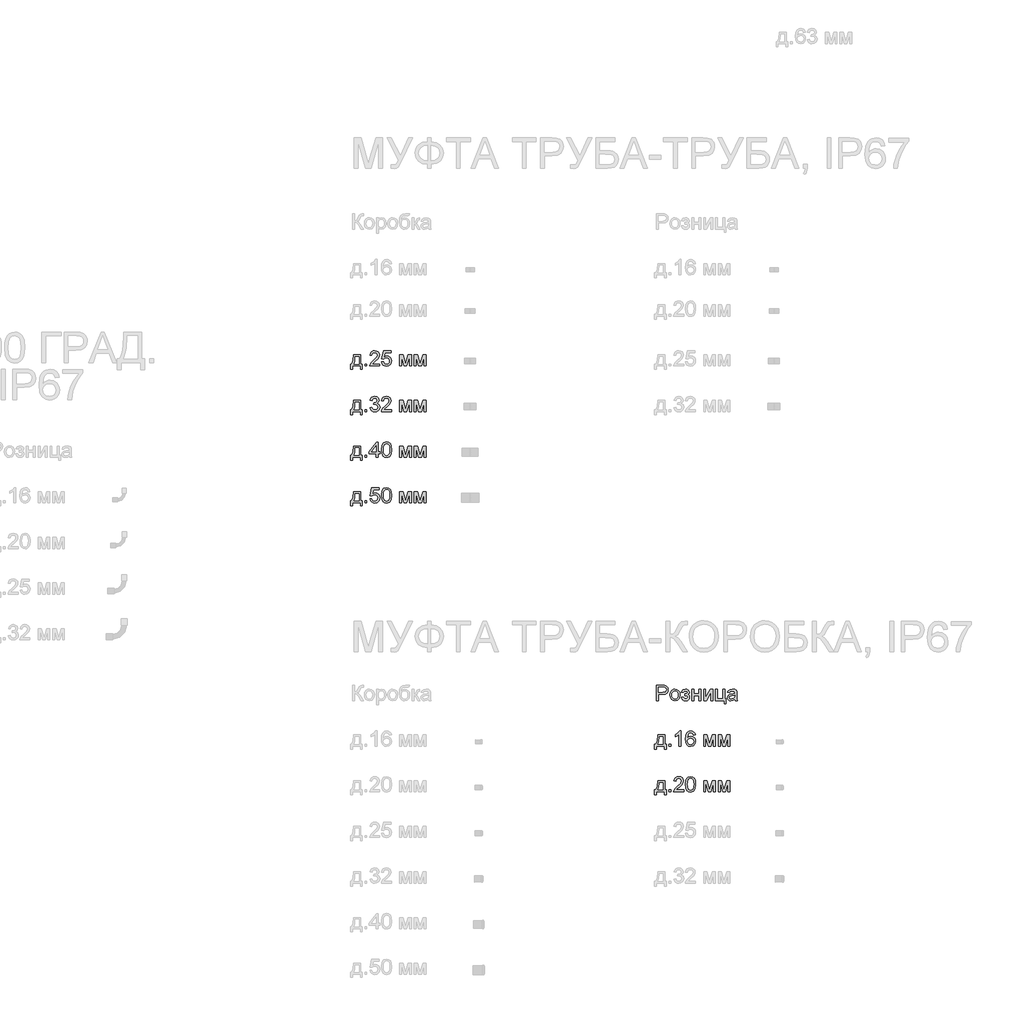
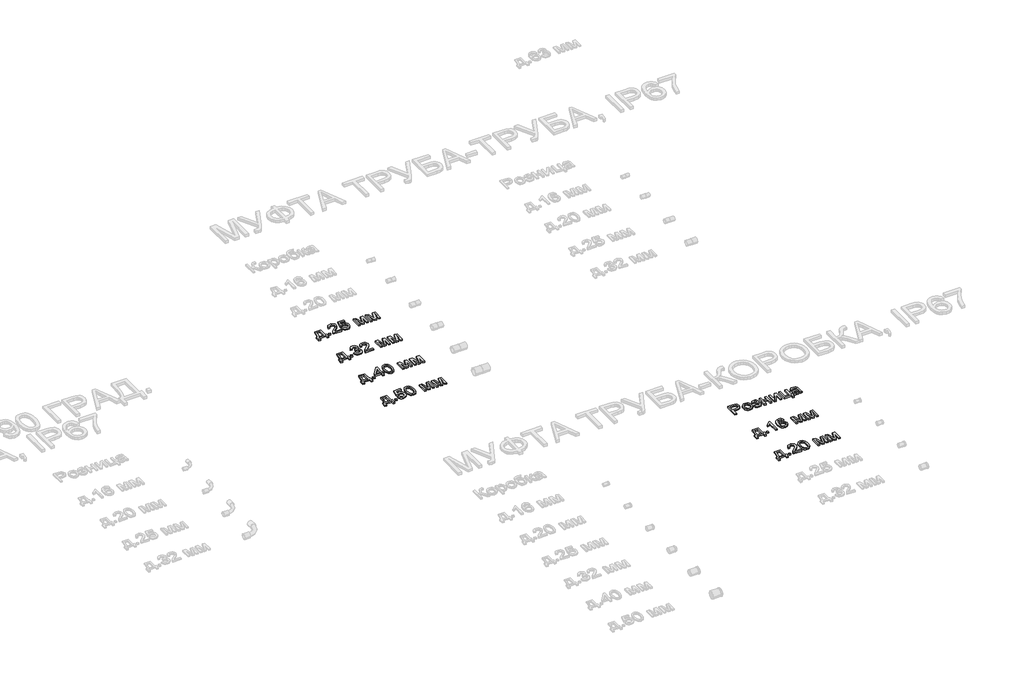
# One storey, part 71 of 98: 7 proxies.
"""IFC4 building model written with IfcOpenShell, lengths in millimetres."""

from ifc_helpers import new_model, si_unit, origin, origin_with_axes, place, context, project, spatial, polyline, outline, extrude, element, save

model = new_model("IFC4")

# Units and contexts
model_context = context("Model", 3, world=origin())
ifc_project = project(units=[si_unit("LENGTHUNIT", "METRE", prefix="MILLI")], contexts=[model_context])

# Site, building, storey
site = spatial("IfcSite", under=ifc_project)
building = spatial("IfcBuilding", under=site)
storey = spatial("IfcBuildingStorey", under=building, Name="Этаж 01", Elevation=0.0)

# Proxies
placement = place(None, origin())
element("IfcBuildingElementProxy", 1, Name="100", ObjectType="100", at=placement, inside=storey, context=model_context, shape_type="SweptSolid", body=[
    extrude(outline(polyline([(8356.3281893, -20085.7395637), (8403.4170847, -20085.7395637), (8403.4170847, -20146.9551277), (8412.8348638, -20146.9551277), (8412.8348638, -20179.9173545), (8400.277825, -20179.9173545), (8400.277825, -20159.5121665), (8348.4800401, -20159.5121665), (8348.4800401, -20179.9173545), (8335.9230013, -20179.9173545), (8335.9230013, -20146.9551277), (8343.7711505, -20146.9551277), (8353.4709725, -20123.0060098), (8356.3281893, -20085.7395637)]), holes=[polyline([(8367.3155982, -20098.2966025), (8364.3725423, -20126.905559), (8357.8978192, -20146.9551277), (8390.8600459, -20146.9551277), (8390.8600459, -20098.2966025), (8367.3155982, -20098.2966025)])]), origin_with_axes(), (0.0, 0.0, 1.0), 10.0),
    extrude(outline(polyline([(8430.1007921, -20159.5121665), (8430.1007921, -20146.9551277), (8442.6578308, -20146.9551277), (8442.6578308, -20159.5121665), (8430.1007921, -20159.5121665)])), origin_with_axes(), (0.0, 0.0, 1.0), 10.0),
    extrude(outline(polyline([(8527.4178425, -20146.9551277), (8527.4178425, -20159.5121665), (8461.493389, -20159.5121665), (8462.8422896, -20150.8546768), (8470.4697097, -20137.5250859), (8486.1905336, -20122.9692216), (8507.8710459, -20102.0489988), (8513.2911739, -20087.8242283), (8508.1776142, -20076.3095219), (8494.8234978, -20071.6128951), (8480.9052956, -20076.1991573), (8475.6200576, -20088.8788234), (8463.0630188, -20087.3091935), (8466.1072424, -20075.1629563), (8472.6892644, -20066.2908689), (8482.4657284, -20060.8646095), (8495.0932779, -20059.0558563), (8507.8127979, -20061.0669445), (8517.5708678, -20067.1002093), (8523.7788765, -20076.1133182), (8525.8482127, -20087.0639389), (8523.6163953, -20098.9710528), (8516.1974417, -20111.2828369), (8498.2080121, -20128.4874515), (8483.7625124, -20140.5662437), (8478.0971297, -20146.9551277), (8527.4178425, -20146.9551277)])), origin_with_axes(), (0.0, 0.0, 1.0), 10.0),
    extrude(outline(polyline([(8539.9748813, -20132.8284591), (8552.5319201, -20131.2588292), (8558.8594904, -20144.1960127), (8571.9806149, -20148.5247575), (8580.981461, -20147.019507), (8587.7259643, -20142.5037555), (8591.9382131, -20135.4986692), (8593.3422961, -20126.5254142), (8588.0815835, -20111.6139307), (8581.475036, -20107.5120464), (8572.1768186, -20106.1447517), (8561.1526215, -20108.3275182), (8554.1015499, -20113.9929009), (8541.5445111, -20112.4232711), (8552.5319201, -20060.6254862), (8601.1904453, -20060.6254862), (8601.1904453, -20073.1825249), (8562.6854631, -20073.1825249), (8557.314386, -20100.847251), (8566.2845753, -20095.4025974), (8575.6839603, -20093.5877129), (8587.4163303, -20095.8379245), (8597.1560061, -20102.5885591), (8603.7135027, -20112.8769922), (8605.8993348, -20125.7405993), (8603.9311662, -20138.2976381), (8598.0266601, -20149.0397923), (8586.7204202, -20158.0712953), (8571.931564, -20161.0817963), (8559.5983201, -20159.1473501), (8549.7728051, -20153.3440117), (8543.0374989, -20144.3462312), (8539.9748813, -20132.8284591)])), origin_with_axes(), (0.0, 0.0, 1.0), 10.0),
    extrude(outline(polyline([(8659.2667496, -20085.7395637), (8680.8736855, -20085.7395637), (8697.5264771, -20144.7968867), (8715.4791185, -20085.7395637), (8736.1786121, -20085.7395637), (8736.1786121, -20159.5121665), (8723.6215733, -20159.5121665), (8723.6215733, -20100.111487), (8705.5708301, -20159.5121665), (8689.0897167, -20159.5121665), (8671.8237884, -20097.2665329), (8671.8237884, -20159.5121665), (8659.2667496, -20159.5121665), (8659.2667496, -20085.7395637)])), origin_with_axes(), (0.0, 0.0, 1.0), 10.0),
    extrude(outline(polyline([(8755.0141702, -20085.7395637), (8776.6211061, -20085.7395637), (8793.2738977, -20144.7968867), (8811.2265391, -20085.7395637), (8831.9260327, -20085.7395637), (8831.9260327, -20159.5121665), (8819.3689939, -20159.5121665), (8819.3689939, -20100.111487), (8801.3182507, -20159.5121665), (8784.8371373, -20159.5121665), (8767.571209, -20097.2665329), (8767.571209, -20159.5121665), (8755.0141702, -20159.5121665), (8755.0141702, -20085.7395637)])), origin_with_axes(), (0.0, 0.0, 1.0), 10.0),
])
element("IfcBuildingElementProxy", 2, Name="100", ObjectType="100", at=placement, inside=storey, context=model_context, shape_type="SweptSolid", body=[
    extrude(outline(polyline([(8356.3281893, -20385.7395637), (8403.4170847, -20385.7395637), (8403.4170847, -20446.9551277), (8412.8348638, -20446.9551277), (8412.8348638, -20479.9173545), (8400.277825, -20479.9173545), (8400.277825, -20459.5121665), (8348.4800401, -20459.5121665), (8348.4800401, -20479.9173545), (8335.9230013, -20479.9173545), (8335.9230013, -20446.9551277), (8343.7711505, -20446.9551277), (8353.4709725, -20423.0060098), (8356.3281893, -20385.7395637)]), holes=[polyline([(8367.3155982, -20398.2966025), (8364.3725423, -20426.905559), (8357.8978192, -20446.9551277), (8390.8600459, -20446.9551277), (8390.8600459, -20398.2966025), (8367.3155982, -20398.2966025)])]), origin_with_axes(), (0.0, 0.0, 1.0), 10.0),
    extrude(outline(polyline([(8430.1007921, -20459.5121665), (8430.1007921, -20446.9551277), (8442.6578308, -20446.9551277), (8442.6578308, -20459.5121665), (8430.1007921, -20459.5121665)])), origin_with_axes(), (0.0, 0.0, 1.0), 10.0),
    extrude(outline(polyline([(8463.0630188, -20432.8284591), (8475.6200576, -20431.2588292), (8482.5485019, -20444.4780556), (8495.5102108, -20448.5247575), (8504.1186495, -20447.1329373), (8510.7650509, -20442.9574767), (8516.4304336, -20429.1741646), (8510.8141018, -20416.1879302), (8496.5402804, -20411.049845), (8487.735638, -20412.4232711), (8489.1335896, -20399.8662323), (8491.1446778, -20400.0133851), (8505.3939738, -20396.4081416), (8510.1396515, -20391.8341421), (8511.7215441, -20385.3226308), (8507.1352819, -20375.5001815), (8495.3140071, -20371.6128951), (8483.3455795, -20375.5369697), (8477.1896875, -20387.3091935), (8464.6326487, -20385.7395637), (8468.3298627, -20374.4639805), (8474.9088191, -20366.0456142), (8483.9096652, -20360.8032958), (8494.8725487, -20359.0558563), (8510.0170242, -20362.5016843), (8520.6120256, -20371.9194634), (8524.2785828, -20384.5868668), (8520.7959666, -20396.1628869), (8510.4952708, -20404.47702), (8524.180481, -20413.0609332), (8528.9874724, -20429.3948938), (8526.5839767, -20441.6331015), (8519.3734896, -20451.860221), (8508.4903139, -20458.7764025), (8495.0687524, -20461.0817963), (8482.9286466, -20459.1136276), (8473.0448836, -20453.2091216), (8466.1716217, -20444.1776186), (8463.0630188, -20432.8284591)])), origin_with_axes(), (0.0, 0.0, 1.0), 10.0),
    extrude(outline(polyline([(8604.329705, -20446.9551277), (8604.329705, -20459.5121665), (8538.4052515, -20459.5121665), (8539.7541521, -20450.8546768), (8547.3815721, -20437.5250859), (8563.1023961, -20422.9692216), (8584.7829083, -20402.0489988), (8590.2030364, -20387.8242283), (8585.0894766, -20376.3095219), (8571.7353602, -20371.6128951), (8557.8171581, -20376.1991573), (8552.5319201, -20388.8788234), (8539.9748813, -20387.3091935), (8543.0191048, -20375.1629563), (8549.6011268, -20366.2908689), (8559.3775909, -20360.8646095), (8572.0051403, -20359.0558563), (8584.7246603, -20361.0669445), (8594.4827303, -20367.1002093), (8600.6907389, -20376.1133182), (8602.7600751, -20387.0639389), (8600.5282577, -20398.9710528), (8593.1093041, -20411.2828369), (8575.1198746, -20428.4874515), (8560.6743749, -20440.5662437), (8555.0089922, -20446.9551277), (8604.329705, -20446.9551277)])), origin_with_axes(), (0.0, 0.0, 1.0), 10.0),
    extrude(outline(polyline([(8659.2667496, -20385.7395637), (8680.8736855, -20385.7395637), (8697.5264771, -20444.7968867), (8715.4791185, -20385.7395637), (8736.1786121, -20385.7395637), (8736.1786121, -20459.5121665), (8723.6215733, -20459.5121665), (8723.6215733, -20400.111487), (8705.5708301, -20459.5121665), (8689.0897167, -20459.5121665), (8671.8237884, -20397.2665329), (8671.8237884, -20459.5121665), (8659.2667496, -20459.5121665), (8659.2667496, -20385.7395637)])), origin_with_axes(), (0.0, 0.0, 1.0), 10.0),
    extrude(outline(polyline([(8755.0141702, -20385.7395637), (8776.6211061, -20385.7395637), (8793.2738977, -20444.7968867), (8811.2265391, -20385.7395637), (8831.9260327, -20385.7395637), (8831.9260327, -20459.5121665), (8819.3689939, -20459.5121665), (8819.3689939, -20400.111487), (8801.3182507, -20459.5121665), (8784.8371373, -20459.5121665), (8767.571209, -20397.2665329), (8767.571209, -20459.5121665), (8755.0141702, -20459.5121665), (8755.0141702, -20385.7395637)])), origin_with_axes(), (0.0, 0.0, 1.0), 10.0),
])
element("IfcBuildingElementProxy", 3, Name="100", ObjectType="100", at=placement, inside=storey, context=model_context, shape_type="SweptSolid", body=[
    extrude(outline(polyline([(8356.3281893, -20685.7395637), (8403.4170847, -20685.7395637), (8403.4170847, -20746.9551277), (8412.8348638, -20746.9551277), (8412.8348638, -20779.9173545), (8400.277825, -20779.9173545), (8400.277825, -20759.5121665), (8348.4800401, -20759.5121665), (8348.4800401, -20779.9173545), (8335.9230013, -20779.9173545), (8335.9230013, -20746.9551277), (8343.7711505, -20746.9551277), (8353.4709725, -20723.0060098), (8356.3281893, -20685.7395637)]), holes=[polyline([(8367.3155982, -20698.2966025), (8364.3725423, -20726.905559), (8357.8978192, -20746.9551277), (8390.8600459, -20746.9551277), (8390.8600459, -20698.2966025), (8367.3155982, -20698.2966025)])]), origin_with_axes(), (0.0, 0.0, 1.0), 10.0),
    extrude(outline(polyline([(8430.1007921, -20759.5121665), (8430.1007921, -20746.9551277), (8442.6578308, -20746.9551277), (8442.6578308, -20759.5121665), (8430.1007921, -20759.5121665)])), origin_with_axes(), (0.0, 0.0, 1.0), 10.0),
    extrude(outline(polyline([(8503.8733948, -20759.5121665), (8503.8733948, -20735.9677188), (8458.3541293, -20735.9677188), (8458.3541293, -20723.41068), (8507.0126545, -20660.6254862), (8516.4304336, -20660.6254862), (8516.4304336, -20723.41068), (8528.9874724, -20723.41068), (8528.9874724, -20735.9677188), (8516.4304336, -20735.9677188), (8516.4304336, -20759.5121665), (8503.8733948, -20759.5121665)]), holes=[polyline([(8503.8733948, -20723.41068), (8503.8733948, -20684.6113922), (8473.8051731, -20723.41068), (8503.8733948, -20723.41068)])]), origin_with_axes(), (0.0, 0.0, 1.0), 10.0),
    extrude(outline(polyline([(8539.9748813, -20710.0933518), (8543.665964, -20681.1900897), (8554.6288474, -20664.5250353), (8572.9371081, -20659.0558563), (8587.6033369, -20662.2932179), (8597.7323545, -20671.6251578), (8603.6184665, -20686.4875904), (8605.8993348, -20710.0933518), (8602.2450404, -20738.8739865), (8591.3189451, -20755.5758291), (8583.0875855, -20759.7053045), (8572.9371081, -20761.0817963), (8559.88956, -20758.6905633), (8549.9812716, -20751.5168644), (8542.4764789, -20734.5268476), (8539.9748813, -20710.0933518)]), holes=[polyline([(8552.5319201, -20710.0688263), (8554.0034481, -20729.8210238), (8558.418032, -20741.2529568), (8564.990857, -20746.7068073), (8572.9371081, -20748.5247575), (8580.8833592, -20746.700676), (8587.4561841, -20741.2284313), (8591.8707681, -20729.7903669), (8593.3422961, -20710.0688263), (8591.919819, -20690.7611529), (8587.6523879, -20679.2403151), (8581.0918256, -20673.5197501), (8572.7899553, -20671.6128951), (8564.9295433, -20673.2928895), (8558.6142357, -20678.3328729), (8554.052499, -20690.5710806), (8552.5319201, -20710.0688263)])]), origin_with_axes(), (0.0, 0.0, 1.0), 10.0),
    extrude(outline(polyline([(8659.2667496, -20685.7395637), (8680.8736855, -20685.7395637), (8697.5264771, -20744.7968867), (8715.4791185, -20685.7395637), (8736.1786121, -20685.7395637), (8736.1786121, -20759.5121665), (8723.6215733, -20759.5121665), (8723.6215733, -20700.111487), (8705.5708301, -20759.5121665), (8689.0897167, -20759.5121665), (8671.8237884, -20697.2665329), (8671.8237884, -20759.5121665), (8659.2667496, -20759.5121665), (8659.2667496, -20685.7395637)])), origin_with_axes(), (0.0, 0.0, 1.0), 10.0),
    extrude(outline(polyline([(8755.0141702, -20685.7395637), (8776.6211061, -20685.7395637), (8793.2738977, -20744.7968867), (8811.2265391, -20685.7395637), (8831.9260327, -20685.7395637), (8831.9260327, -20759.5121665), (8819.3689939, -20759.5121665), (8819.3689939, -20700.111487), (8801.3182507, -20759.5121665), (8784.8371373, -20759.5121665), (8767.571209, -20697.2665329), (8767.571209, -20759.5121665), (8755.0141702, -20759.5121665), (8755.0141702, -20685.7395637)])), origin_with_axes(), (0.0, 0.0, 1.0), 10.0),
])
element("IfcBuildingElementProxy", 4, Name="100", ObjectType="100", at=placement, inside=storey, context=model_context, shape_type="SweptSolid", body=[
    extrude(outline(polyline([(8356.3281893, -20985.7395637), (8403.4170847, -20985.7395637), (8403.4170847, -21046.9551277), (8412.8348638, -21046.9551277), (8412.8348638, -21079.9173545), (8400.277825, -21079.9173545), (8400.277825, -21059.5121665), (8348.4800401, -21059.5121665), (8348.4800401, -21079.9173545), (8335.9230013, -21079.9173545), (8335.9230013, -21046.9551277), (8343.7711505, -21046.9551277), (8353.4709725, -21023.0060098), (8356.3281893, -20985.7395637)]), holes=[polyline([(8367.3155982, -20998.2966025), (8364.3725423, -21026.905559), (8357.8978192, -21046.9551277), (8390.8600459, -21046.9551277), (8390.8600459, -20998.2966025), (8367.3155982, -20998.2966025)])]), origin_with_axes(), (0.0, 0.0, 1.0), 10.0),
    extrude(outline(polyline([(8430.1007921, -21059.5121665), (8430.1007921, -21046.9551277), (8442.6578308, -21046.9551277), (8442.6578308, -21059.5121665), (8430.1007921, -21059.5121665)])), origin_with_axes(), (0.0, 0.0, 1.0), 10.0),
    extrude(outline(polyline([(8463.0630188, -21032.8284591), (8475.6200576, -21031.2588292), (8481.9476279, -21044.1960127), (8495.0687524, -21048.5247575), (8504.0695986, -21047.019507), (8510.8141018, -21042.5037555), (8515.0263507, -21035.4986692), (8516.4304336, -21026.5254142), (8511.1697211, -21011.6139307), (8504.5631736, -21007.5120464), (8495.2649562, -21006.1447517), (8484.240759, -21008.3275182), (8477.1896875, -21013.9929009), (8464.6326487, -21012.4232711), (8475.6200576, -20960.6254862), (8524.2785828, -20960.6254862), (8524.2785828, -20973.1825249), (8485.7736007, -20973.1825249), (8480.4025236, -21000.847251), (8489.3727129, -20995.4025974), (8498.7720978, -20993.5877129), (8510.5044678, -20995.8379245), (8520.2441436, -21002.5885591), (8526.8016402, -21012.8769922), (8528.9874724, -21025.7405993), (8527.0193037, -21038.2976381), (8521.1147977, -21049.0397923), (8509.8085577, -21058.0712953), (8495.0197015, -21061.0817963), (8482.6864576, -21059.1473501), (8472.8609426, -21053.3440117), (8466.1256365, -21044.3462312), (8463.0630188, -21032.8284591)])), origin_with_axes(), (0.0, 0.0, 1.0), 10.0),
    extrude(outline(polyline([(8539.9748813, -21010.0933518), (8543.665964, -20981.1900897), (8554.6288474, -20964.5250353), (8572.9371081, -20959.0558563), (8587.6033369, -20962.2932179), (8597.7323545, -20971.6251578), (8603.6184665, -20986.4875904), (8605.8993348, -21010.0933518), (8602.2450404, -21038.8739865), (8591.3189451, -21055.5758291), (8583.0875855, -21059.7053045), (8572.9371081, -21061.0817963), (8559.88956, -21058.6905633), (8549.9812716, -21051.5168644), (8542.4764789, -21034.5268476), (8539.9748813, -21010.0933518)]), holes=[polyline([(8552.5319201, -21010.0688263), (8554.0034481, -21029.8210238), (8558.418032, -21041.2529568), (8564.990857, -21046.7068073), (8572.9371081, -21048.5247575), (8580.8833592, -21046.700676), (8587.4561841, -21041.2284313), (8591.8707681, -21029.7903669), (8593.3422961, -21010.0688263), (8591.919819, -20990.7611529), (8587.6523879, -20979.2403151), (8581.0918256, -20973.5197501), (8572.7899553, -20971.6128951), (8564.9295433, -20973.2928895), (8558.6142357, -20978.3328729), (8554.052499, -20990.5710806), (8552.5319201, -21010.0688263)])]), origin_with_axes(), (0.0, 0.0, 1.0), 10.0),
    extrude(outline(polyline([(8659.2667496, -20985.7395637), (8680.8736855, -20985.7395637), (8697.5264771, -21044.7968867), (8715.4791185, -20985.7395637), (8736.1786121, -20985.7395637), (8736.1786121, -21059.5121665), (8723.6215733, -21059.5121665), (8723.6215733, -21000.111487), (8705.5708301, -21059.5121665), (8689.0897167, -21059.5121665), (8671.8237884, -20997.2665329), (8671.8237884, -21059.5121665), (8659.2667496, -21059.5121665), (8659.2667496, -20985.7395637)])), origin_with_axes(), (0.0, 0.0, 1.0), 10.0),
    extrude(outline(polyline([(8755.0141702, -20985.7395637), (8776.6211061, -20985.7395637), (8793.2738977, -21044.7968867), (8811.2265391, -20985.7395637), (8831.9260327, -20985.7395637), (8831.9260327, -21059.5121665), (8819.3689939, -21059.5121665), (8819.3689939, -21000.111487), (8801.3182507, -21059.5121665), (8784.8371373, -21059.5121665), (8767.571209, -20997.2665329), (8767.571209, -21059.5121665), (8755.0141702, -21059.5121665), (8755.0141702, -20985.7395637)])), origin_with_axes(), (0.0, 0.0, 1.0), 10.0),
])
element("IfcBuildingElementProxy", 5, Name="100", ObjectType="100", at=placement, inside=storey, context=model_context, shape_type="SweptSolid", body=[
    extrude(outline(polyline([(10349.7389883, -22359.5121665), (10349.7389883, -22259.0558563), (10386.9686463, -22259.0558563), (10401.9782317, -22260.0123495), (10414.1796512, -22264.7089763), (10422.0891141, -22274.421061), (10425.081221, -22288.1185339), (10423.0609357, -22299.9582028), (10417.0000798, -22309.8235716), (10405.6662487, -22316.4822358), (10387.8270376, -22318.7017905), (10362.2960271, -22318.7017905), (10362.2960271, -22359.5121665), (10349.7389883, -22359.5121665)]), holes=[polyline([(10362.2960271, -22306.1447517), (10388.5628016, -22306.1447517), (10407.0550032, -22301.533964), (10411.1568874, -22295.9850773), (10412.5241822, -22288.5599923), (10409.2990834, -22278.1611946), (10400.8255347, -22272.4712864), (10388.268496, -22271.6128951), (10362.2960271, -22271.6128951), (10362.2960271, -22306.1447517)])]), origin_with_axes(), (0.0, 0.0, 1.0), 10.0),
    extrude(outline(polyline([(10437.6382597, -22322.6258651), (10440.3544551, -22304.8387706), (10448.5030413, -22292.3369141), (10458.5707453, -22286.2116789), (10470.625012, -22284.1699338), (10483.8166472, -22286.656203), (10494.3534006, -22294.1150104), (10501.2603851, -22305.957745), (10503.5627133, -22321.5957955), (10499.4914858, -22343.9384953), (10487.6334229, -22356.5813732), (10470.625012, -22361.0817963), (10457.2739612, -22358.6047242), (10446.7494705, -22351.1735079), (10439.9160624, -22339.082453), (10437.6382597, -22322.6258651)]), holes=[polyline([(10450.1952985, -22322.6013396), (10451.6484324, -22333.9658276), (10456.007834, -22342.0622972), (10462.5683963, -22346.9091424), (10470.625012, -22348.5247575), (10478.6448395, -22346.8999454), (10485.193139, -22342.025509), (10489.5525406, -22333.8217405), (10491.0056745, -22322.2089321), (10489.5433436, -22311.175538), (10485.1563508, -22303.189433), (10478.5988542, -22298.3425877), (10470.625012, -22296.7269726), (10462.5683963, -22298.3364563), (10456.007834, -22303.1649075), (10451.6484324, -22311.242983), (10450.1952985, -22322.6013396)])]), origin_with_axes(), (0.0, 0.0, 1.0), 10.0),
    extrude(outline(polyline([(10534.9553102, -22326.5499397), (10534.9553102, -22313.9929009), (10544.8635986, -22313.5023916), (10549.8667937, -22310.8904294), (10552.2212385, -22305.4335132), (10549.0697161, -22299.0936801), (10540.939524, -22296.7269726), (10532.5395517, -22299.0814174), (10527.107161, -22306.1447517), (10512.9804923, -22304.5751218), (10522.4227969, -22289.2712308), (10539.6641997, -22284.1699338), (10550.1610993, -22285.7242353), (10558.1073504, -22290.3871396), (10563.1105455, -22297.2082849), (10564.7782773, -22305.2373094), (10562.4054384, -22313.0364077), (10555.2869218, -22319.0696725), (10563.5887921, -22326.8932962), (10566.3479071, -22338.1504853), (10564.5974019, -22347.3935204), (10559.3458865, -22354.7174378), (10550.9489799, -22359.4907067), (10539.7623016, -22361.0817963), (10528.8208779, -22359.6102683), (10520.4484968, -22355.1956844), (10514.6451584, -22347.8380445), (10511.4108625, -22337.5373486), (10525.5375311, -22335.9677188), (10531.2029138, -22345.238345), (10540.9640494, -22348.5247575), (10550.1365738, -22345.3732351), (10553.7908683, -22337.3166194), (10551.5222627, -22330.719269), (10546.6907458, -22327.1876018), (10537.4078568, -22326.4763633), (10534.9553102, -22326.5499397)])), origin_with_axes(), (0.0, 0.0, 1.0), 10.0),
    extrude(outline(polyline([(10582.0442056, -22285.7395637), (10594.6012443, -22285.7395637), (10594.6012443, -22313.9929009), (10627.5634711, -22313.9929009), (10627.5634711, -22285.7395637), (10640.1205099, -22285.7395637), (10640.1205099, -22359.5121665), (10627.5634711, -22359.5121665), (10627.5634711, -22326.5499397), (10594.6012443, -22326.5499397), (10594.6012443, -22359.5121665), (10582.0442056, -22359.5121665), (10582.0442056, -22285.7395637)])), origin_with_axes(), (0.0, 0.0, 1.0), 10.0),
    extrude(outline(polyline([(10658.956068, -22285.7395637), (10671.5131068, -22285.7395637), (10671.5131068, -22342.0009835), (10702.3661435, -22285.7395637), (10718.6020022, -22285.7395637), (10718.6020022, -22359.5121665), (10706.0449634, -22359.5121665), (10706.0449634, -22303.5941032), (10675.3881305, -22359.5121665), (10658.956068, -22359.5121665), (10658.956068, -22285.7395637)])), origin_with_axes(), (0.0, 0.0, 1.0), 10.0),
    extrude(outline(polyline([(10737.4375603, -22285.7395637), (10749.9945991, -22285.7395637), (10749.9945991, -22346.9551277), (10786.0960856, -22346.9551277), (10786.0960856, -22285.7395637), (10798.6531243, -22285.7395637), (10798.6531243, -22346.9551277), (10806.5012736, -22346.9551277), (10806.5012736, -22379.9173545), (10793.9442348, -22379.9173545), (10793.9442348, -22359.5121665), (10737.4375603, -22359.5121665), (10737.4375603, -22285.7395637)])), origin_with_axes(), (0.0, 0.0, 1.0), 10.0),
    extrude(outline(polyline([(10864.5775779, -22350.0943874), (10852.4006838, -22358.6047242), (10838.9484655, -22361.0817963), (10828.4546316, -22359.5918742), (10820.7137813, -22355.122108), (10815.9405124, -22348.3346852), (10814.3494228, -22339.8917934), (10816.7529185, -22329.9589795), (10823.0682261, -22322.7484924), (10831.8606058, -22318.6282141), (10842.7253873, -22316.7397532), (10864.5040015, -22312.4232711), (10864.5775779, -22309.6273679), (10861.1194871, -22300.3567416), (10847.2380732, -22296.7269726), (10834.5338816, -22299.1427311), (10828.4760914, -22307.7143815), (10815.9190526, -22306.1447517), (10821.3514434, -22293.8820185), (10832.2898014, -22286.6960569), (10848.8567539, -22284.1699338), (10864.0748058, -22286.4017513), (10872.6709818, -22292.0058203), (10876.52148, -22300.5284199), (10877.1346166, -22311.5158288), (10877.1346166, -22327.1385509), (10877.7722788, -22348.9539532), (10880.2738763, -22359.5121665), (10867.7168376, -22359.5121665), (10864.5775779, -22350.0943874)]), holes=[polyline([(10864.5775779, -22324.9803098), (10844.3195427, -22328.8308081), (10833.5160747, -22330.8664218), (10828.6232442, -22334.1773597), (10826.9064616, -22339.0088766), (10830.6465952, -22345.8024308), (10841.6217414, -22348.5247575), (10854.3259329, -22345.5203879), (10862.5174387, -22338.2485871), (10864.5040015, -22328.5365025), (10864.5775779, -22324.9803098)])]), origin_with_axes(), (0.0, 0.0, 1.0), 10.0),
])
element("IfcBuildingElementProxy", 6, Name="100", ObjectType="100", at=placement, inside=storey, context=model_context, shape_type="SweptSolid", body=[
    extrude(outline(polyline([(10356.3281893, -22585.7395637), (10403.4170847, -22585.7395637), (10403.4170847, -22646.9551277), (10412.8348638, -22646.9551277), (10412.8348638, -22679.9173545), (10400.277825, -22679.9173545), (10400.277825, -22659.5121665), (10348.4800401, -22659.5121665), (10348.4800401, -22679.9173545), (10335.9230013, -22679.9173545), (10335.9230013, -22646.9551277), (10343.7711505, -22646.9551277), (10353.4709725, -22623.0060098), (10356.3281893, -22585.7395637)]), holes=[polyline([(10367.3155982, -22598.2966025), (10364.3725423, -22626.905559), (10357.8978192, -22646.9551277), (10390.8600459, -22646.9551277), (10390.8600459, -22598.2966025), (10367.3155982, -22598.2966025)])]), origin_with_axes(), (0.0, 0.0, 1.0), 10.0),
    extrude(outline(polyline([(10430.1007921, -22659.5121665), (10430.1007921, -22646.9551277), (10442.6578308, -22646.9551277), (10442.6578308, -22659.5121665), (10430.1007921, -22659.5121665)])), origin_with_axes(), (0.0, 0.0, 1.0), 10.0),
    extrude(outline(polyline([(10510.1519142, -22659.5121665), (10497.5948755, -22659.5121665), (10497.5948755, -22581.2268779), (10485.7000243, -22589.7004265), (10472.4807979, -22596.0402596), (10472.4807979, -22584.1699338), (10490.8871604, -22572.4222355), (10502.0585103, -22559.0558563), (10510.1519142, -22559.0558563), (10510.1519142, -22659.5121665)])), origin_with_axes(), (0.0, 0.0, 1.0), 10.0),
    extrude(outline(polyline([(10604.329705, -22585.7395637), (10591.7726662, -22587.3091935), (10587.0147258, -22576.8368194), (10574.4331615, -22571.6128951), (10563.1023961, -22574.6540529), (10554.5307456, -22586.0706575), (10550.9622902, -22608.4501455), (10562.0355383, -22598.4314925), (10575.7575367, -22595.1573428), (10587.3580823, -22597.3952916), (10597.0946924, -22604.109138), (10603.6981742, -22614.3669143), (10605.8993348, -22627.2366527), (10601.754531, -22644.5638947), (10590.3501892, -22656.8266279), (10573.8936013, -22661.0817963), (10559.647371, -22658.2613677), (10548.3012771, -22649.8000818), (10540.8792579, -22634.8640728), (10538.4052515, -22612.6194748), (10541.1521037, -22587.6096305), (10549.3926604, -22570.5092491), (10560.6437181, -22561.9192045), (10575.2179764, -22559.0558563), (10586.2360422, -22560.8278213), (10595.0590787, -22566.1437161), (10601.2394962, -22574.5866079), (10604.329705, -22585.7395637)]), holes=[polyline([(10550.9622902, -22627.040449), (10553.868558, -22637.9174933), (10561.5940799, -22645.8146935), (10572.9125826, -22648.5247575), (10581.1991245, -22647.1206746), (10587.7137015, -22642.9084257), (10591.9351474, -22636.2865498), (10593.3422961, -22627.6535857), (10591.9535415, -22619.3670437), (10587.7872779, -22613.0486705), (10581.1623363, -22609.0479538), (10572.3975478, -22607.7143815), (10557.2040214, -22613.0486705), (10552.522723, -22619.2137596), (10550.9622902, -22627.040449)])]), origin_with_axes(), (0.0, 0.0, 1.0), 10.0),
    extrude(outline(polyline([(10659.2667496, -22585.7395637), (10680.8736855, -22585.7395637), (10697.5264771, -22644.7968867), (10715.4791185, -22585.7395637), (10736.1786121, -22585.7395637), (10736.1786121, -22659.5121665), (10723.6215733, -22659.5121665), (10723.6215733, -22600.111487), (10705.5708301, -22659.5121665), (10689.0897167, -22659.5121665), (10671.8237884, -22597.2665329), (10671.8237884, -22659.5121665), (10659.2667496, -22659.5121665), (10659.2667496, -22585.7395637)])), origin_with_axes(), (0.0, 0.0, 1.0), 10.0),
    extrude(outline(polyline([(10755.0141702, -22585.7395637), (10776.6211061, -22585.7395637), (10793.2738977, -22644.7968867), (10811.2265391, -22585.7395637), (10831.9260327, -22585.7395637), (10831.9260327, -22659.5121665), (10819.3689939, -22659.5121665), (10819.3689939, -22600.111487), (10801.3182507, -22659.5121665), (10784.8371373, -22659.5121665), (10767.571209, -22597.2665329), (10767.571209, -22659.5121665), (10755.0141702, -22659.5121665), (10755.0141702, -22585.7395637)])), origin_with_axes(), (0.0, 0.0, 1.0), 10.0),
])
element("IfcBuildingElementProxy", 7, Name="100", ObjectType="100", at=placement, inside=storey, context=model_context, shape_type="SweptSolid", body=[
    extrude(outline(polyline([(10356.3281893, -22885.7395637), (10403.4170847, -22885.7395637), (10403.4170847, -22946.9551277), (10412.8348638, -22946.9551277), (10412.8348638, -22979.9173545), (10400.277825, -22979.9173545), (10400.277825, -22959.5121665), (10348.4800401, -22959.5121665), (10348.4800401, -22979.9173545), (10335.9230013, -22979.9173545), (10335.9230013, -22946.9551277), (10343.7711505, -22946.9551277), (10353.4709725, -22923.0060098), (10356.3281893, -22885.7395637)]), holes=[polyline([(10367.3155982, -22898.2966025), (10364.3725423, -22926.905559), (10357.8978192, -22946.9551277), (10390.8600459, -22946.9551277), (10390.8600459, -22898.2966025), (10367.3155982, -22898.2966025)])]), origin_with_axes(), (0.0, 0.0, 1.0), 10.0),
    extrude(outline(polyline([(10430.1007921, -22959.5121665), (10430.1007921, -22946.9551277), (10442.6578308, -22946.9551277), (10442.6578308, -22959.5121665), (10430.1007921, -22959.5121665)])), origin_with_axes(), (0.0, 0.0, 1.0), 10.0),
    extrude(outline(polyline([(10527.4178425, -22946.9551277), (10527.4178425, -22959.5121665), (10461.493389, -22959.5121665), (10462.8422896, -22950.8546768), (10470.4697097, -22937.5250859), (10486.1905336, -22922.9692216), (10507.8710459, -22902.0489988), (10513.2911739, -22887.8242283), (10508.1776142, -22876.3095219), (10494.8234978, -22871.6128951), (10480.9052956, -22876.1991573), (10475.6200576, -22888.8788234), (10463.0630188, -22887.3091935), (10466.1072424, -22875.1629563), (10472.6892644, -22866.2908689), (10482.4657284, -22860.8646095), (10495.0932779, -22859.0558563), (10507.8127979, -22861.0669445), (10517.5708678, -22867.1002093), (10523.7788765, -22876.1133182), (10525.8482127, -22887.0639389), (10523.6163953, -22898.9710528), (10516.1974417, -22911.2828369), (10498.2080121, -22928.4874515), (10483.7625124, -22940.5662437), (10478.0971297, -22946.9551277), (10527.4178425, -22946.9551277)])), origin_with_axes(), (0.0, 0.0, 1.0), 10.0),
    extrude(outline(polyline([(10539.9748813, -22910.0933518), (10543.665964, -22881.1900897), (10554.6288474, -22864.5250353), (10572.9371081, -22859.0558563), (10587.6033369, -22862.2932179), (10597.7323545, -22871.6251578), (10603.6184665, -22886.4875904), (10605.8993348, -22910.0933518), (10602.2450404, -22938.8739865), (10591.3189451, -22955.5758291), (10583.0875855, -22959.7053045), (10572.9371081, -22961.0817963), (10559.88956, -22958.6905633), (10549.9812716, -22951.5168644), (10542.4764789, -22934.5268476), (10539.9748813, -22910.0933518)]), holes=[polyline([(10552.5319201, -22910.0688263), (10554.0034481, -22929.8210238), (10558.418032, -22941.2529568), (10564.990857, -22946.7068073), (10572.9371081, -22948.5247575), (10580.8833592, -22946.700676), (10587.4561841, -22941.2284313), (10591.8707681, -22929.7903669), (10593.3422961, -22910.0688263), (10591.919819, -22890.7611529), (10587.6523879, -22879.2403151), (10581.0918256, -22873.5197501), (10572.7899553, -22871.6128951), (10564.9295433, -22873.2928895), (10558.6142357, -22878.3328729), (10554.052499, -22890.5710806), (10552.5319201, -22910.0688263)])]), origin_with_axes(), (0.0, 0.0, 1.0), 10.0),
    extrude(outline(polyline([(10659.2667496, -22885.7395637), (10680.8736855, -22885.7395637), (10697.5264771, -22944.7968867), (10715.4791185, -22885.7395637), (10736.1786121, -22885.7395637), (10736.1786121, -22959.5121665), (10723.6215733, -22959.5121665), (10723.6215733, -22900.111487), (10705.5708301, -22959.5121665), (10689.0897167, -22959.5121665), (10671.8237884, -22897.2665329), (10671.8237884, -22959.5121665), (10659.2667496, -22959.5121665), (10659.2667496, -22885.7395637)])), origin_with_axes(), (0.0, 0.0, 1.0), 10.0),
    extrude(outline(polyline([(10755.0141702, -22885.7395637), (10776.6211061, -22885.7395637), (10793.2738977, -22944.7968867), (10811.2265391, -22885.7395637), (10831.9260327, -22885.7395637), (10831.9260327, -22959.5121665), (10819.3689939, -22959.5121665), (10819.3689939, -22900.111487), (10801.3182507, -22959.5121665), (10784.8371373, -22959.5121665), (10767.571209, -22897.2665329), (10767.571209, -22959.5121665), (10755.0141702, -22959.5121665), (10755.0141702, -22885.7395637)])), origin_with_axes(), (0.0, 0.0, 1.0), 10.0),
])

save(model, "model.ifc")
